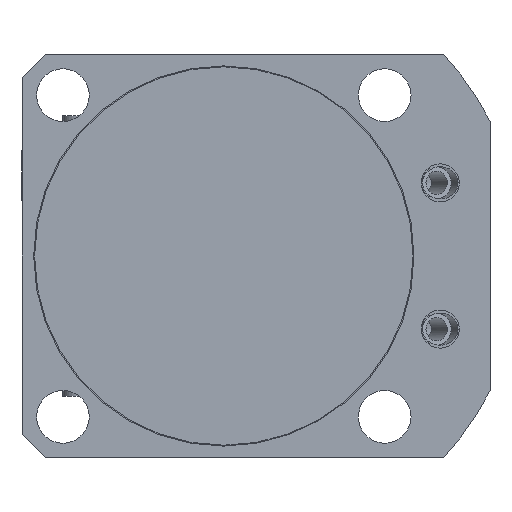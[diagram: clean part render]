
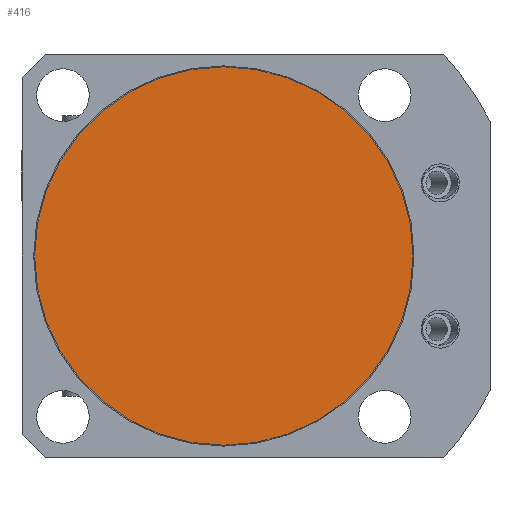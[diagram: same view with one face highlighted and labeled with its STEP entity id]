
A CAD part, front view. The second image highlights one B-rep face of the part: STEP entity #416.
In plain terms, the highlighted planar face has unit normal (0, -1, 0).
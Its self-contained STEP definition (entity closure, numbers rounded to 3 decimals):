
#416 = ADVANCED_FACE( '', ( #918 ), #919, .T. );
#918 = FACE_OUTER_BOUND( '', #1960, .T. );
#919 = PLANE( '', #1961 );
#1960 = EDGE_LOOP( '', ( #3144 ) );
#1961 = AXIS2_PLACEMENT_3D( '', #3145, #3146, #3147 );
#3144 = ORIENTED_EDGE( '', *, *, #6429, .T. );
#3145 = CARTESIAN_POINT( '', ( 0., -79., 0. ) );
#3146 = DIRECTION( '', ( 0., -1., 0. ) );
#3147 = DIRECTION( '', ( 1., 0., 0. ) );
#6429 = EDGE_CURVE( '', #7574, #7574, #7575, .T. );
#7574 = VERTEX_POINT( '', #9507 );
#7575 = CIRCLE( '', #9508, 32.35 );
#9507 = CARTESIAN_POINT( '', ( -32.35, -79., 0. ) );
#9508 = AXIS2_PLACEMENT_3D( '', #11984, #11985, #11986 );
#11984 = CARTESIAN_POINT( '', ( 0., -79., 0. ) );
#11985 = DIRECTION( '', ( 0., -1., 0. ) );
#11986 = DIRECTION( '', ( -1., 0., 0. ) );
